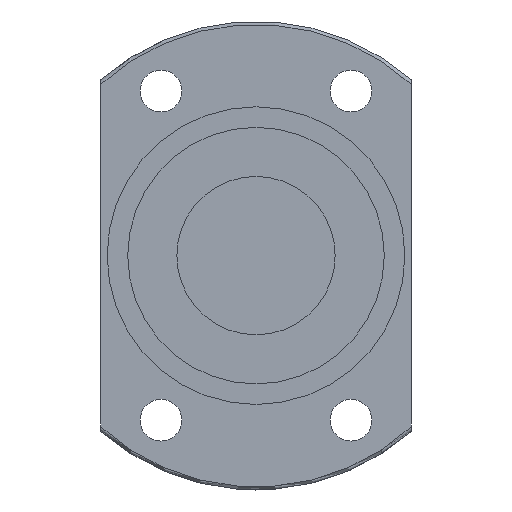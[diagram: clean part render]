
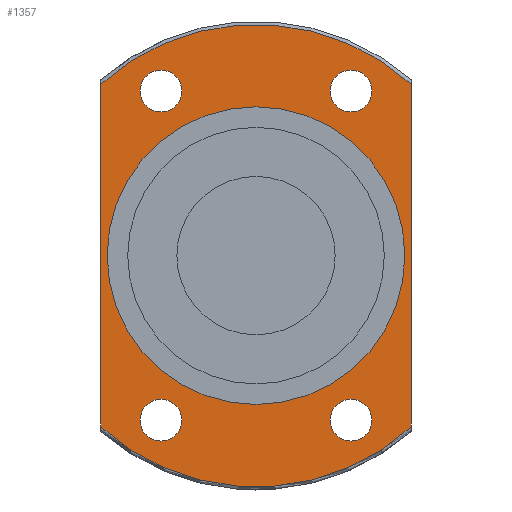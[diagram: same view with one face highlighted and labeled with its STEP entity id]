
A CAD part, left-side view. The second image highlights one B-rep face of the part: STEP entity #1357.
In plain terms, the highlighted planar face has unit normal (-1, 0, 0).
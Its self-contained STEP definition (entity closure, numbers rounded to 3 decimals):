
#51 = VERTEX_POINT ( 'NONE', #452 ) ;
#59 = ORIENTED_EDGE ( 'NONE', *, *, #152, .F. ) ;
#71 = FACE_BOUND ( 'NONE', #1057, .T. ) ;
#73 = EDGE_LOOP ( 'NONE', ( #176 ) ) ;
#97 = CARTESIAN_POINT ( 'NONE',  ( -89., 24.5, -27.055 ) ) ;
#131 = DIRECTION ( 'NONE',  ( -1., 0., 0. ) ) ;
#135 = CARTESIAN_POINT ( 'NONE',  ( -89., 0., 0. ) ) ;
#143 = CARTESIAN_POINT ( 'NONE',  ( -89., -23.5, 0. ) ) ;
#149 = VERTEX_POINT ( 'NONE', #157 ) ;
#150 = VERTEX_POINT ( 'NONE', #217 ) ;
#152 = EDGE_CURVE ( 'NONE', #206, #206, #1450, .T. ) ;
#157 = CARTESIAN_POINT ( 'NONE',  ( -89., -18.3, 25.98 ) ) ;
#159 = DIRECTION ( 'NONE',  ( 1., 0., 0. ) ) ;
#176 = ORIENTED_EDGE ( 'NONE', *, *, #381, .F. ) ;
#180 = FACE_BOUND ( 'NONE', #1552, .T. ) ;
#186 = DIRECTION ( 'NONE',  ( 0., 0., 1. ) ) ;
#194 = FACE_BOUND ( 'NONE', #880, .T. ) ;
#199 = AXIS2_PLACEMENT_3D ( 'NONE', #1576, #625, #1108 ) ;
#206 = VERTEX_POINT ( 'NONE', #723 ) ;
#217 = CARTESIAN_POINT ( 'NONE',  ( -89., 24.5, 27.055 ) ) ;
#233 = DIRECTION ( 'NONE',  ( 1., 0., 0. ) ) ;
#235 = ORIENTED_EDGE ( 'NONE', *, *, #1023, .F. ) ;
#245 = DIRECTION ( 'NONE',  ( -1., 0., 0. ) ) ;
#258 = EDGE_CURVE ( 'NONE', #150, #51, #1027, .T. ) ;
#263 = EDGE_LOOP ( 'NONE', ( #636, #781, #1496, #303 ) ) ;
#281 = DIRECTION ( 'NONE',  ( -1., 0., 0. ) ) ;
#293 = LINE ( 'NONE', #411, #1241 ) ;
#303 = ORIENTED_EDGE ( 'NONE', *, *, #258, .F. ) ;
#309 = PLANE ( 'NONE',  #1411 ) ;
#317 = DIRECTION ( 'NONE',  ( -1., 0., 0. ) ) ;
#364 = EDGE_CURVE ( 'NONE', #607, #150, #694, .T. ) ;
#381 = EDGE_CURVE ( 'NONE', #984, #984, #1551, .T. ) ;
#400 = DIRECTION ( 'NONE',  ( 0., -1., 0. ) ) ;
#403 = FACE_OUTER_BOUND ( 'NONE', #263, .T. ) ;
#407 = AXIS2_PLACEMENT_3D ( 'NONE', #135, #233, #634 ) ;
#411 = CARTESIAN_POINT ( 'NONE',  ( -89., -24.5, 0. ) ) ;
#452 = CARTESIAN_POINT ( 'NONE',  ( -89., -24.5, 27.055 ) ) ;
#488 = CARTESIAN_POINT ( 'NONE',  ( -89., -15., 25.98 ) ) ;
#491 = AXIS2_PLACEMENT_3D ( 'NONE', #1415, #317, #918 ) ;
#511 = CARTESIAN_POINT ( 'NONE',  ( -89., -18.3, -25.98 ) ) ;
#518 = CARTESIAN_POINT ( 'NONE',  ( -89., 0., 0. ) ) ;
#528 = CARTESIAN_POINT ( 'NONE',  ( -89., 15., 25.98 ) ) ;
#532 = AXIS2_PLACEMENT_3D ( 'NONE', #1024, #281, #1251 ) ;
#536 = DIRECTION ( 'NONE',  ( 0., 1., 0. ) ) ;
#541 = DIRECTION ( 'NONE',  ( -1., 0., 0. ) ) ;
#549 = FACE_BOUND ( 'NONE', #73, .T. ) ;
#559 = EDGE_CURVE ( 'NONE', #149, #149, #1042, .T. ) ;
#578 = DIRECTION ( 'NONE',  ( 0., 0., 1. ) ) ;
#585 = CIRCLE ( 'NONE', #906, 36.5 ) ;
#607 = VERTEX_POINT ( 'NONE', #97 ) ;
#625 = DIRECTION ( 'NONE',  ( -1., 0., 0. ) ) ;
#634 = DIRECTION ( 'NONE',  ( 0., 1., 0. ) ) ;
#636 = ORIENTED_EDGE ( 'NONE', *, *, #364, .F. ) ;
#670 = VECTOR ( 'NONE', #578, 1000. ) ;
#694 = LINE ( 'NONE', #930, #670 ) ;
#723 = CARTESIAN_POINT ( 'NONE',  ( -89., 11.7, -25.98 ) ) ;
#735 = EDGE_LOOP ( 'NONE', ( #1073 ) ) ;
#757 = VERTEX_POINT ( 'NONE', #143 ) ;
#781 = ORIENTED_EDGE ( 'NONE', *, *, #1012, .F. ) ;
#787 = CARTESIAN_POINT ( 'NONE',  ( -89., 11.7, 25.98 ) ) ;
#808 = DIRECTION ( 'NONE',  ( 0., 0., 1. ) ) ;
#829 = DIRECTION ( 'NONE',  ( 0., -1., 0. ) ) ;
#868 = EDGE_CURVE ( 'NONE', #757, #757, #1517, .T. ) ;
#880 = EDGE_LOOP ( 'NONE', ( #1099 ) ) ;
#886 = CIRCLE ( 'NONE', #1441, 3.3 ) ;
#906 = AXIS2_PLACEMENT_3D ( 'NONE', #518, #159, #536 ) ;
#907 = VERTEX_POINT ( 'NONE', #787 ) ;
#918 = DIRECTION ( 'NONE',  ( 0., -1., 0. ) ) ;
#930 = CARTESIAN_POINT ( 'NONE',  ( -89., 24.5, 0. ) ) ;
#984 = VERTEX_POINT ( 'NONE', #511 ) ;
#1012 = EDGE_CURVE ( 'NONE', #1266, #607, #585, .T. ) ;
#1023 = EDGE_CURVE ( 'NONE', #907, #907, #886, .T. ) ;
#1024 = CARTESIAN_POINT ( 'NONE',  ( -89., 0., 0. ) ) ;
#1027 = CIRCLE ( 'NONE', #407, 36.5 ) ;
#1042 = CIRCLE ( 'NONE', #1191, 3.3 ) ;
#1057 = EDGE_LOOP ( 'NONE', ( #235 ) ) ;
#1073 = ORIENTED_EDGE ( 'NONE', *, *, #559, .F. ) ;
#1099 = ORIENTED_EDGE ( 'NONE', *, *, #868, .F. ) ;
#1108 = DIRECTION ( 'NONE',  ( 0., -1., 0. ) ) ;
#1135 = CARTESIAN_POINT ( 'NONE',  ( -89., -24.5, -27.055 ) ) ;
#1191 = AXIS2_PLACEMENT_3D ( 'NONE', #488, #131, #829 ) ;
#1241 = VECTOR ( 'NONE', #186, 1000. ) ;
#1251 = DIRECTION ( 'NONE',  ( 0., -1., 0. ) ) ;
#1266 = VERTEX_POINT ( 'NONE', #1135 ) ;
#1357 = ADVANCED_FACE ( 'NONE', ( #194, #403, #71, #1494, #549, #180 ), #309, .T. ) ;
#1370 = CARTESIAN_POINT ( 'NONE',  ( -89., 36.5, 0. ) ) ;
#1411 = AXIS2_PLACEMENT_3D ( 'NONE', #1370, #541, #808 ) ;
#1415 = CARTESIAN_POINT ( 'NONE',  ( -89., -15., -25.98 ) ) ;
#1426 = EDGE_CURVE ( 'NONE', #1266, #51, #293, .T. ) ;
#1441 = AXIS2_PLACEMENT_3D ( 'NONE', #528, #245, #400 ) ;
#1450 = CIRCLE ( 'NONE', #199, 3.3 ) ;
#1494 = FACE_BOUND ( 'NONE', #735, .T. ) ;
#1496 = ORIENTED_EDGE ( 'NONE', *, *, #1426, .T. ) ;
#1517 = CIRCLE ( 'NONE', #532, 23.5 ) ;
#1551 = CIRCLE ( 'NONE', #491, 3.3 ) ;
#1552 = EDGE_LOOP ( 'NONE', ( #59 ) ) ;
#1576 = CARTESIAN_POINT ( 'NONE',  ( -89., 15., -25.98 ) ) ;
